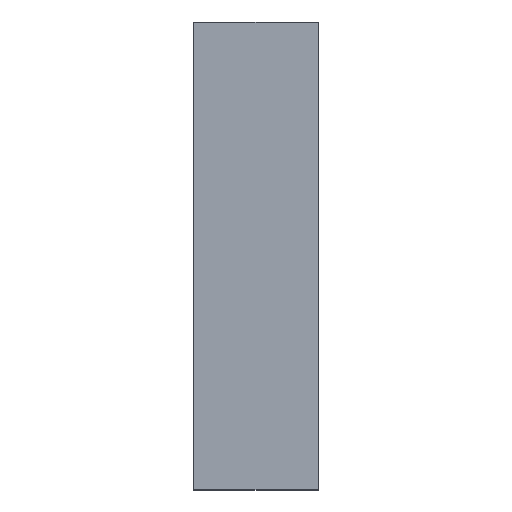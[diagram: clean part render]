
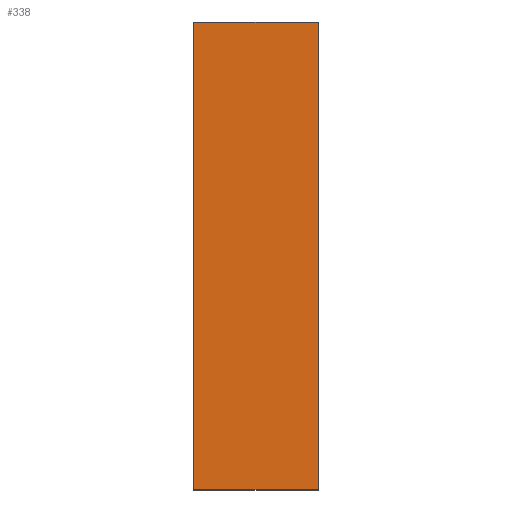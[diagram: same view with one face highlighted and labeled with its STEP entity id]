
A CAD part, top view. The second image highlights one B-rep face of the part: STEP entity #338.
In plain terms, the highlighted planar face has unit normal (0, 0, 1).
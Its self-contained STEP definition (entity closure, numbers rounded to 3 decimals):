
#24 = VERTEX_POINT('',#25);
#25 = CARTESIAN_POINT('',(-12.,-15.,53.2));
#32 = PLANE('',#33);
#33 = AXIS2_PLACEMENT_3D('',#34,#35,#36);
#34 = CARTESIAN_POINT('',(-12.,-15.,53.));
#35 = DIRECTION('',(1.,0.,0.));
#36 = DIRECTION('',(0.,0.,1.));
#44 = PLANE('',#45);
#45 = AXIS2_PLACEMENT_3D('',#46,#47,#48);
#46 = CARTESIAN_POINT('',(-12.,-15.,53.));
#47 = DIRECTION('',(0.,1.,0.));
#48 = DIRECTION('',(0.,0.,1.));
#85 = VERTEX_POINT('',#86);
#86 = CARTESIAN_POINT('',(-12.,15.,53.2));
#100 = PLANE('',#101);
#101 = AXIS2_PLACEMENT_3D('',#102,#103,#104);
#102 = CARTESIAN_POINT('',(-12.,15.,53.));
#103 = DIRECTION('',(0.,1.,0.));
#104 = DIRECTION('',(0.,0.,1.));
#112 = EDGE_CURVE('',#24,#85,#113,.T.);
#113 = SURFACE_CURVE('',#114,(#118,#125),.PCURVE_S1.);
#114 = LINE('',#115,#116);
#115 = CARTESIAN_POINT('',(-12.,-15.,53.2));
#116 = VECTOR('',#117,1.);
#117 = DIRECTION('',(0.,1.,0.));
#118 = PCURVE('',#32,#119);
#119 = DEFINITIONAL_REPRESENTATION('',(#120),#124);
#120 = LINE('',#121,#122);
#121 = CARTESIAN_POINT('',(0.2,0.));
#122 = VECTOR('',#123,1.);
#123 = DIRECTION('',(0.,-1.));
#124 = ( GEOMETRIC_REPRESENTATION_CONTEXT(2) 
PARAMETRIC_REPRESENTATION_CONTEXT() REPRESENTATION_CONTEXT('2D SPACE',''
  ) );
#125 = PCURVE('',#126,#131);
#126 = PLANE('',#127);
#127 = AXIS2_PLACEMENT_3D('',#128,#129,#130);
#128 = CARTESIAN_POINT('',(-12.,-15.,53.2));
#129 = DIRECTION('',(0.,0.,1.));
#130 = DIRECTION('',(1.,0.,0.));
#131 = DEFINITIONAL_REPRESENTATION('',(#132),#136);
#132 = LINE('',#133,#134);
#133 = CARTESIAN_POINT('',(0.,0.));
#134 = VECTOR('',#135,1.);
#135 = DIRECTION('',(0.,1.));
#136 = ( GEOMETRIC_REPRESENTATION_CONTEXT(2) 
PARAMETRIC_REPRESENTATION_CONTEXT() REPRESENTATION_CONTEXT('2D SPACE',''
  ) );
#144 = VERTEX_POINT('',#145);
#145 = CARTESIAN_POINT('',(-4.,-15.,53.2));
#152 = PLANE('',#153);
#153 = AXIS2_PLACEMENT_3D('',#154,#155,#156);
#154 = CARTESIAN_POINT('',(-4.,-15.,53.));
#155 = DIRECTION('',(1.,0.,0.));
#156 = DIRECTION('',(0.,0.,1.));
#195 = VERTEX_POINT('',#196);
#196 = CARTESIAN_POINT('',(-4.,15.,53.2));
#217 = EDGE_CURVE('',#144,#195,#218,.T.);
#218 = SURFACE_CURVE('',#219,(#223,#230),.PCURVE_S1.);
#219 = LINE('',#220,#221);
#220 = CARTESIAN_POINT('',(-4.,-15.,53.2));
#221 = VECTOR('',#222,1.);
#222 = DIRECTION('',(0.,1.,0.));
#223 = PCURVE('',#152,#224);
#224 = DEFINITIONAL_REPRESENTATION('',(#225),#229);
#225 = LINE('',#226,#227);
#226 = CARTESIAN_POINT('',(0.2,0.));
#227 = VECTOR('',#228,1.);
#228 = DIRECTION('',(0.,-1.));
#229 = ( GEOMETRIC_REPRESENTATION_CONTEXT(2) 
PARAMETRIC_REPRESENTATION_CONTEXT() REPRESENTATION_CONTEXT('2D SPACE',''
  ) );
#230 = PCURVE('',#126,#231);
#231 = DEFINITIONAL_REPRESENTATION('',(#232),#236);
#232 = LINE('',#233,#234);
#233 = CARTESIAN_POINT('',(8.,0.));
#234 = VECTOR('',#235,1.);
#235 = DIRECTION('',(0.,1.));
#236 = ( GEOMETRIC_REPRESENTATION_CONTEXT(2) 
PARAMETRIC_REPRESENTATION_CONTEXT() REPRESENTATION_CONTEXT('2D SPACE',''
  ) );
#263 = EDGE_CURVE('',#24,#144,#264,.T.);
#264 = SURFACE_CURVE('',#265,(#269,#276),.PCURVE_S1.);
#265 = LINE('',#266,#267);
#266 = CARTESIAN_POINT('',(-12.,-15.,53.2));
#267 = VECTOR('',#268,1.);
#268 = DIRECTION('',(1.,0.,0.));
#269 = PCURVE('',#44,#270);
#270 = DEFINITIONAL_REPRESENTATION('',(#271),#275);
#271 = LINE('',#272,#273);
#272 = CARTESIAN_POINT('',(0.2,0.));
#273 = VECTOR('',#274,1.);
#274 = DIRECTION('',(0.,1.));
#275 = ( GEOMETRIC_REPRESENTATION_CONTEXT(2) 
PARAMETRIC_REPRESENTATION_CONTEXT() REPRESENTATION_CONTEXT('2D SPACE',''
  ) );
#276 = PCURVE('',#126,#277);
#277 = DEFINITIONAL_REPRESENTATION('',(#278),#282);
#278 = LINE('',#279,#280);
#279 = CARTESIAN_POINT('',(0.,0.));
#280 = VECTOR('',#281,1.);
#281 = DIRECTION('',(1.,0.));
#282 = ( GEOMETRIC_REPRESENTATION_CONTEXT(2) 
PARAMETRIC_REPRESENTATION_CONTEXT() REPRESENTATION_CONTEXT('2D SPACE',''
  ) );
#310 = EDGE_CURVE('',#85,#195,#311,.T.);
#311 = SURFACE_CURVE('',#312,(#316,#323),.PCURVE_S1.);
#312 = LINE('',#313,#314);
#313 = CARTESIAN_POINT('',(-12.,15.,53.2));
#314 = VECTOR('',#315,1.);
#315 = DIRECTION('',(1.,0.,0.));
#316 = PCURVE('',#100,#317);
#317 = DEFINITIONAL_REPRESENTATION('',(#318),#322);
#318 = LINE('',#319,#320);
#319 = CARTESIAN_POINT('',(0.2,0.));
#320 = VECTOR('',#321,1.);
#321 = DIRECTION('',(0.,1.));
#322 = ( GEOMETRIC_REPRESENTATION_CONTEXT(2) 
PARAMETRIC_REPRESENTATION_CONTEXT() REPRESENTATION_CONTEXT('2D SPACE',''
  ) );
#323 = PCURVE('',#126,#324);
#324 = DEFINITIONAL_REPRESENTATION('',(#325),#329);
#325 = LINE('',#326,#327);
#326 = CARTESIAN_POINT('',(0.,30.));
#327 = VECTOR('',#328,1.);
#328 = DIRECTION('',(1.,0.));
#329 = ( GEOMETRIC_REPRESENTATION_CONTEXT(2) 
PARAMETRIC_REPRESENTATION_CONTEXT() REPRESENTATION_CONTEXT('2D SPACE',''
  ) );
#338 = ADVANCED_FACE('',(#339),#126,.T.);
#339 = FACE_BOUND('',#340,.T.);
#340 = EDGE_LOOP('',(#341,#342,#343,#344));
#341 = ORIENTED_EDGE('',*,*,#112,.F.);
#342 = ORIENTED_EDGE('',*,*,#263,.T.);
#343 = ORIENTED_EDGE('',*,*,#217,.T.);
#344 = ORIENTED_EDGE('',*,*,#310,.F.);
